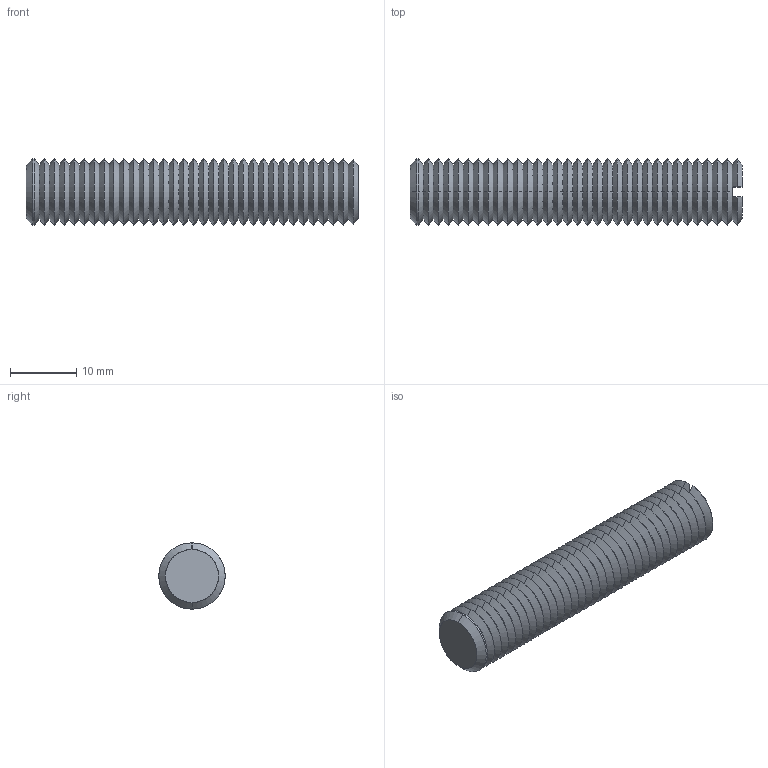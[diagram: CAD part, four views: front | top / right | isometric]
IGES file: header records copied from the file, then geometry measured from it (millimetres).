
Start section: SolidWorks IGES file using analytic representation for surfaces
Global section: file name: C:\Documents and Settings\IANO\Desktop\Temp File\Process pending\EXISTING\34300_v2\34300_v2_20170622_IGES\Default.igs; native system: SolidWorks 2009; preprocessor: SolidWorks 2009; author: IANO; date: 170622.093521; units: millimetre
Bounding box: 50 x 10 x 10 mm (x, y, z)
Surface area: 2390.5 mm2 (no closed solid volume)
Topology: 0 solids, 0 shells, 140 faces, 624 edges, 624 vertices
Faces by surface type: revolution 134, bspline 6
